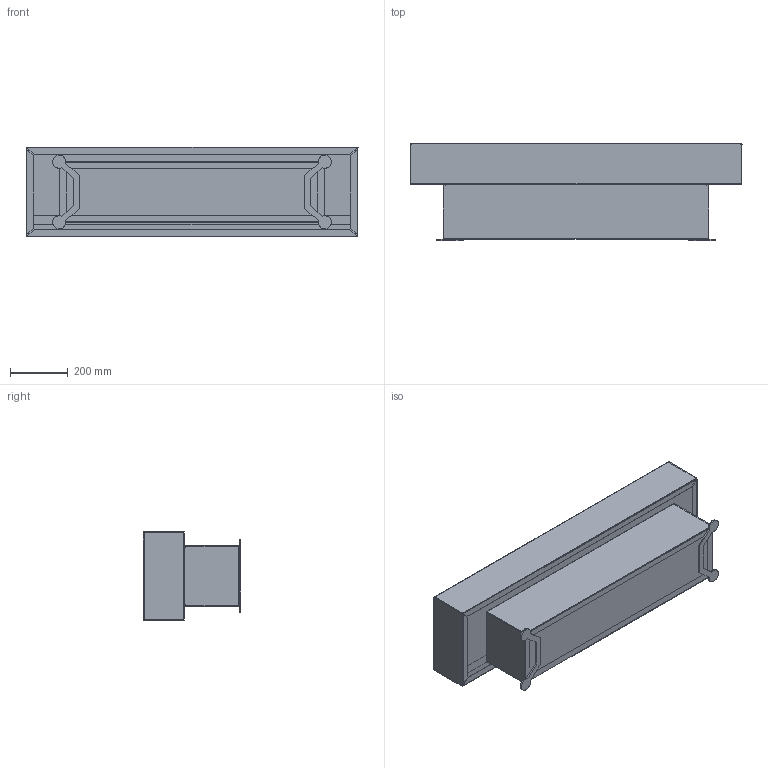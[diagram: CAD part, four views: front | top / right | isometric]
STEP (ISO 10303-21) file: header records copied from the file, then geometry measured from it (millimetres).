
FILE_DESCRIPTION (( 'STEP AP214' ), '1' );
FILE_NAME ('Eskoleia UNIT 005.STEP', '2026-09-12T21:30:43', ( '' ), ( '' ), 'SwSTEP 2.0', 'SolidWorks 2025', '' );
FILE_SCHEMA (( 'AUTOMOTIVE_DESIGN' ));
Length unit declared in the file: millimetre
Products named in the file (1): Eskoleia UNIT 005
Bounding box: 1150 x 337 x 310 mm (x, y, z)
Volume: 3013702.1 mm3; surface area: 3883751.1 mm2
Topology: 1 solids, 1 shells, 264 faces, 864 edges, 546 vertices
Faces by surface type: plane 222, bspline 32, cylinder 10
Entity records: 11827 total; most frequent: CARTESIAN_POINT 4527, ORIENTED_EDGE 1728, DIRECTION 1214, EDGE_CURVE 864, LINE 692, VECTOR 692, VERTEX_POINT 546, EDGE_LOOP 288
